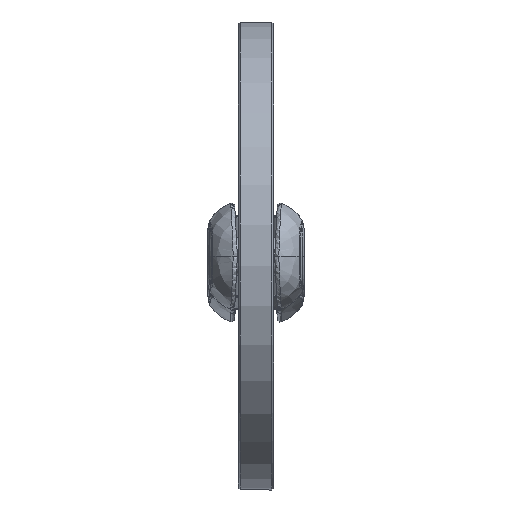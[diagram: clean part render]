
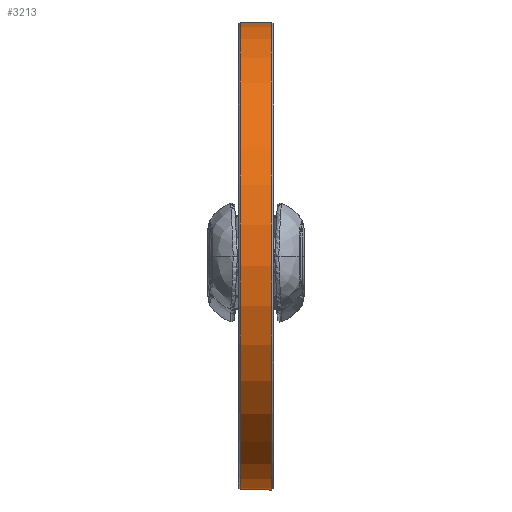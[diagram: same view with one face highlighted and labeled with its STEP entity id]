
A CAD part, top view. The second image highlights one B-rep face of the part: STEP entity #3213.
In plain terms, the highlighted cylindrical face has radius 730 mm (diameter 1460 mm), a full revolution.
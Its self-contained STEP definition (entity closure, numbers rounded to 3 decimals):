
#650=CYLINDRICAL_SURFACE($,#3571,730.);
#777=FACE_BOUND($,#1323,.T.);
#993=FACE_OUTER_BOUND($,#1322,.T.);
#1322=EDGE_LOOP($,(#2943));
#1323=EDGE_LOOP($,(#2944));
#1512=CIRCLE($,#3570,730.);
#1513=CIRCLE($,#3572,730.);
#1791=VERTEX_POINT($,#14135);
#1792=VERTEX_POINT($,#14138);
#2180=EDGE_CURVE($,#1791,#1791,#1512,.T.);
#2181=EDGE_CURVE($,#1792,#1792,#1513,.T.);
#2943=ORIENTED_EDGE($,*,*,#2181,.F.);
#2944=ORIENTED_EDGE($,*,*,#2180,.F.);
#3213=ADVANCED_FACE($,(#993,#777),#650,.T.);
#3570=AXIS2_PLACEMENT_3D($,#14136,#4307,#4308);
#3571=AXIS2_PLACEMENT_3D($,#14137,#4309,#4310);
#3572=AXIS2_PLACEMENT_3D($,#14139,#4311,#4312);
#4307=DIRECTION('center_axis',(0.,0.,-1.));
#4308=DIRECTION('ref_axis',(-1.,0.,0.));
#4309=DIRECTION('center_axis',(0.,0.,1.));
#4310=DIRECTION('ref_axis',(-1.,0.,0.));
#4311=DIRECTION('center_axis',(0.,0.,1.));
#4312=DIRECTION('ref_axis',(-1.,0.,0.));
#14135=CARTESIAN_POINT('',(730.,0.,-49.));
#14136=CARTESIAN_POINT('Origin',(0.,0.,-49.));
#14137=CARTESIAN_POINT('Origin',(0.,0.,0.));
#14138=CARTESIAN_POINT('',(730.,0.,49.));
#14139=CARTESIAN_POINT('Origin',(0.,0.,49.));
